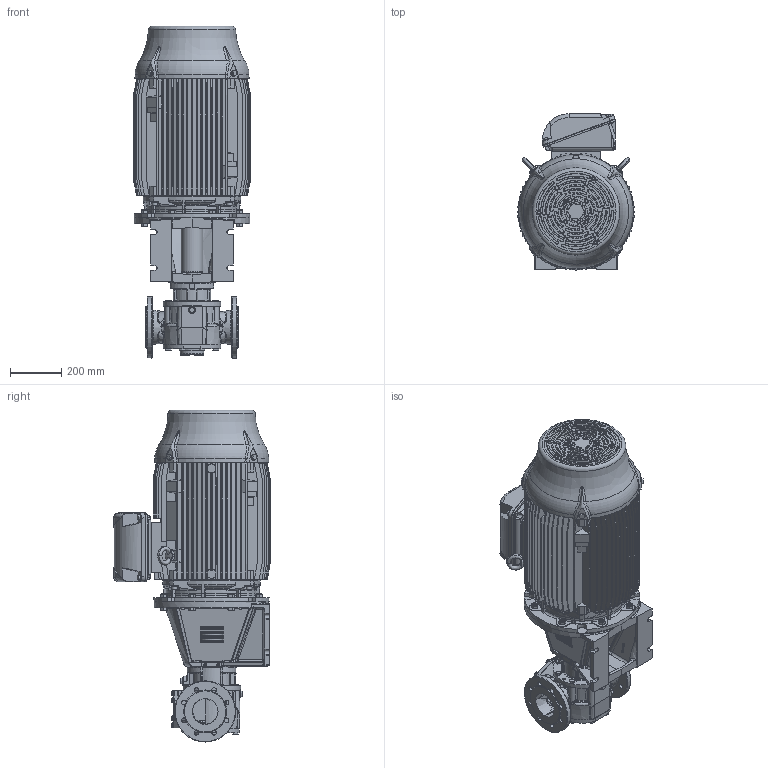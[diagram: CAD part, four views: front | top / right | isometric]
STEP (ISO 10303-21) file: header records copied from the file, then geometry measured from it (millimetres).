
FILE_DESCRIPTION(/* description */ (''),/* implementation_level */ '2;1');
FILE_NAME(/* name */ 'C:\V\JPP\Designs\GEAR PUMPS\PRODUCT ENGINEERING\EUROPE\TG BLOC\TG BLOC_86-100_R5_O_NRV-_225-STEP.stp',/* time_stamp */ '2021-03-19T15:00:37+01:00',/* author */ ('A77THR'),/* organization */ (''),/* preprocessor_version */ 'ST-DEVELOPER v18.1',/* originating_system */ 'Autodesk Inventor 2020',/* authorisation */ '');
FILE_SCHEMA (('AUTOMOTIVE_DESIGN { 1 0 10303 214 3 1 1 }'));
Length unit declared in the file: millimetre
Products named in the file (1): TG BLOC_86-100_R5_O_NRV-_225
Bounding box: 455 x 607.99 x 1291.96 mm (x, y, z)
Volume: 120508867.6 mm3; surface area: 4717409.6 mm2
Topology: 1 solids, 1 shells, 4885 faces, 12989 edges, 8267 vertices
Faces by surface type: plane 2100, cone 972, bspline 933, cylinder 688, torus 144, sphere 48
Full cylindrical faces by diameter (mm): 4.5 x4, 4.917 x4, 6.647 x1, 7.323 x6, 8 x6, 9 x8, 9.188 x8, 10 x16, 10.106 x7, 10.2 x2, 11 x8, 11.053 x4, 11.4 x6, 11.445 x2, 12 x4, 13 x1, 13.157 x2, 13.2 x2, 13.835 x8, 14 x8, 14.8 x4, 15.011 x2, 15.4 x8, 17.2 x20, 17.5 x1, 18 x18, 18.1 x8, 19 x2, 20 x2, 21 x5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
Entity records: 218471 total; most frequent: CARTESIAN_POINT 99622, ORIENTED_EDGE 25790, DIRECTION 21618, EDGE_CURVE 12895, VERTEX_POINT 8267, AXIS2_PLACEMENT_3D 8265, EDGE_LOOP 5298, LINE 5088
